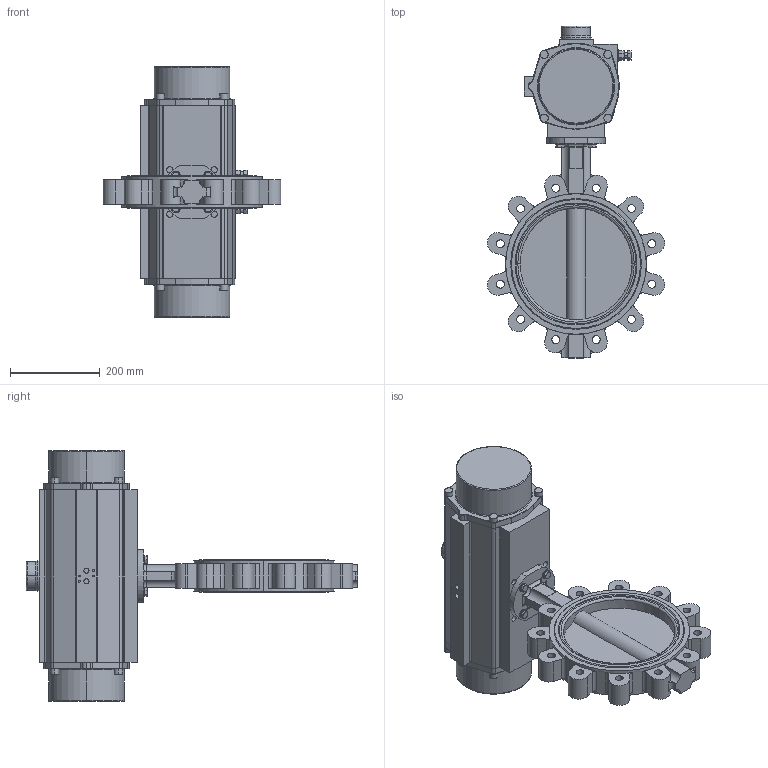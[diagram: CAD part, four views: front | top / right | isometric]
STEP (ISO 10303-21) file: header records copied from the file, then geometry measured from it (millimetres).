
FILE_DESCRIPTION (( 'STEP AP214' ), '1' );
FILE_NAME ('67353.step', '2020-10-23T12:38:42', ( '' ), ( '' ), 'SwSTEP 2.0', 'SolidWorks 2019', '' );
FILE_SCHEMA (( 'AUTOMOTIVE_DESIGN' ));
Length unit declared in the file: millimetre
Products named in the file (6): 6kt-Schr DIN 933_M10x30; 67353; SR1200-V36_02; Achtkantreduktion 36-22 mm; U-Scheibe DIN 125 A_M10; TL20-0250_M01
Assembly tree (11 placements, depth 2):
  67353
    TL20-0250_M01
    SR1200-V36_02
    U-Scheibe DIN 125 A_M10  x4
    6kt-Schr DIN 933_M10x30  x4
    Achtkantreduktion 36-22 mm
Bounding box: 396.56 x 741.5 x 560 mm (x, y, z)
Volume: 23006483.3 mm3; surface area: 1002676 mm2
Topology: 13 solids, 13 shells, 740 faces, 1798 edges, 1148 vertices
Faces by surface type: plane 337, cylinder 312, cone 49, torus 42
Entity records: 22553 total; most frequent: CARTESIAN_POINT 4356, DIRECTION 3518, ORIENTED_EDGE 3188, EDGE_CURVE 1594, AXIS2_PLACEMENT_3D 1342, VERTEX_POINT 1028, VECTOR 834, LINE 834
